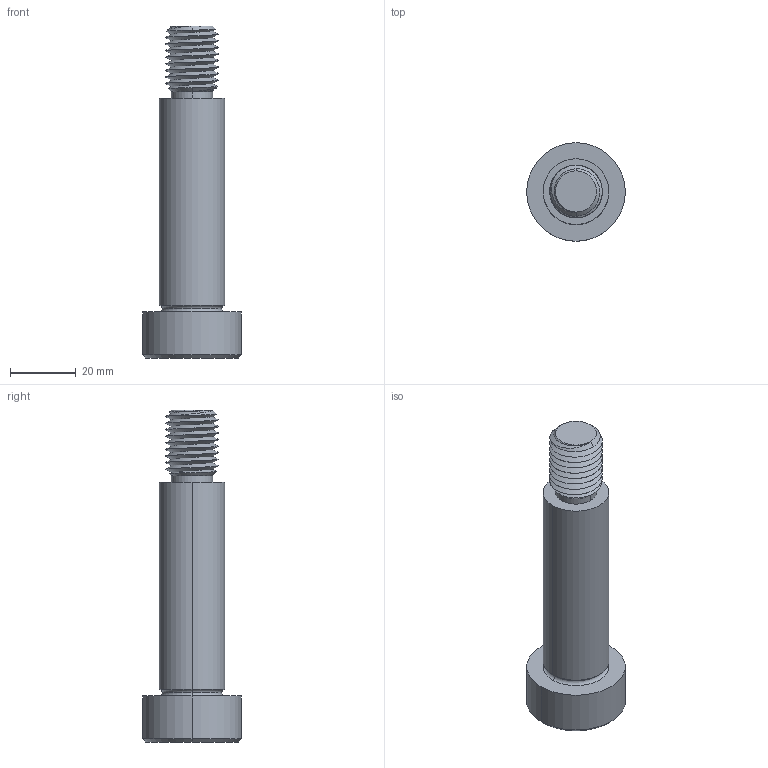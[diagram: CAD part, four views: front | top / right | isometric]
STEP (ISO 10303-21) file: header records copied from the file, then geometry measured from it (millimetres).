
FILE_DESCRIPTION (( 'STEP AP203' ), '1' );
FILE_NAME ('P0130.200-065-B2.step', '2021-11-09T22:24:54', ( '' ), ( '' ), 'SwSTEP 2.0', 'SolidWorks 2019', '' );
FILE_SCHEMA (( 'CONFIG_CONTROL_DESIGN' ));
Length unit declared in the file: millimetre
Products named in the file (1): P0130.200-065-B2
Bounding box: 30 x 30 x 101 mm (x, y, z)
Volume: 32623.5 mm3; surface area: 8988 mm2
Topology: 1 solids, 1 shells, 60 faces, 142 edges, 85 vertices
Faces by surface type: cylinder 24, plane 16, cone 14, torus 4, bspline 2
Entity records: 5678 total; most frequent: CARTESIAN_POINT 4332, ORIENTED_EDGE 280, DIRECTION 247, EDGE_CURVE 140, AXIS2_PLACEMENT_3D 99, VERTEX_POINT 85, EDGE_LOOP 63, ADVANCED_FACE 60
